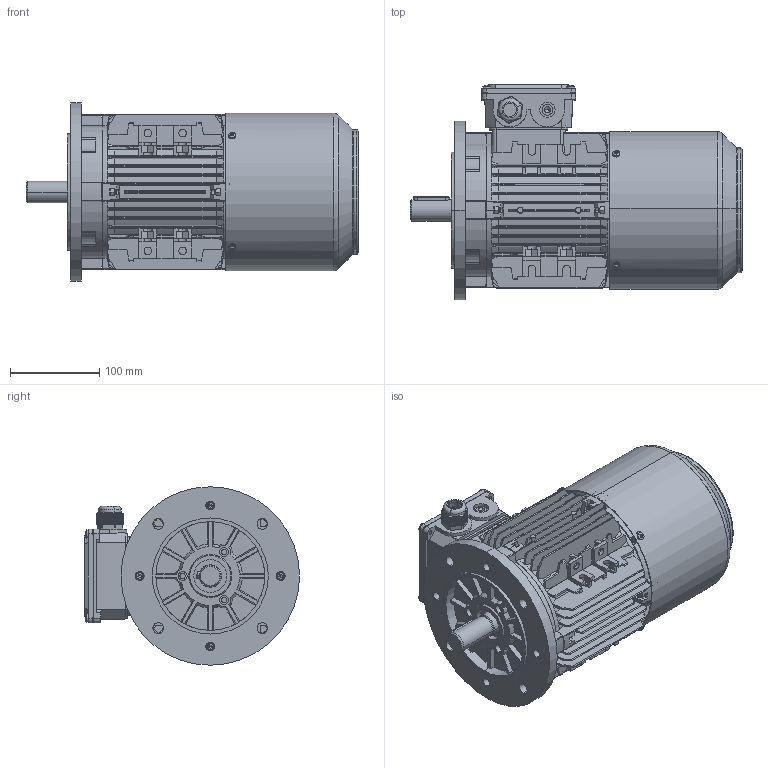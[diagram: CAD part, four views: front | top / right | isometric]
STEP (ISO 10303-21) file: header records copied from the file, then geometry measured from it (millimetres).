
FILE_DESCRIPTION (( 'STEP AP203' ), '1' );
FILE_NAME ('TB90S B5（风罩不带手柄孔）.STEP', '2021-10-22T02:18:28', ( '' ), ( '' ), 'SwSTEP 2.0', 'SolidWorks 2014', '' );
FILE_SCHEMA (( 'CONFIG_CONTROL_DESIGN' ));
Length unit declared in the file: millimetre
Products named in the file (16): 80-100堤盄蹟杶; 陔諉盄碟釱80-100; Hexagon nuts grade C GB_GB_FASTENER_NUT_SNC1 M5-N; TB90S B5（风罩不带手柄孔）; TB90瑞欶ㄗ祥湍忒梟謂ㄘ; TA90B5楊擘1; Cross recessed thread forming screws GB_GB_CROSS_SCREWS_TYPE138 M4X12-N; 90怢宒瑞珔; T90S儂褲; Hexagon socket head cap screws GB_GB_FASTENER_SCREWS_HSHCS M5X25-N; TB90綴裔; 陔諉盄碟裔80-100; Plain parallel keys_GB_CONNECTING_PIECE_KEYS_CSK 8X40; 90-4怢宒瑞珔傍杶; TB90S蛌粣; Cross recessed thread forming screws GB_GB_CROSS_SCREWS_TYPE138 M5X12-N
Assembly tree (36 placements, depth 2):
  TB90S B5（风罩不带手柄孔）
    T90S儂褲
    TB90S蛌粣
    TB90瑞欶ㄗ祥湍忒梟謂ㄘ
    TB90綴裔
    80-100堤盄蹟杶
    Cross recessed thread forming screws GB_GB_CROSS_SCREWS_TYPE138 M4X12-N  x4
    Plain parallel keys_GB_CONNECTING_PIECE_KEYS_CSK 8X40
    Hexagon nuts grade C GB_GB_FASTENER_NUT_SNC1 M5-N  x8
    Hexagon socket head cap screws GB_GB_FASTENER_SCREWS_HSHCS M5X25-N  x8
    Cross recessed thread forming screws GB_GB_CROSS_SCREWS_TYPE138 M5X12-N  x4
    TA90B5楊擘1
    陔諉盄碟裔80-100
    陔諉盄碟釱80-100
    90怢宒瑞珔
    90-4怢宒瑞珔傍杶  x2
Bounding box: 372 x 241 x 200 mm (x, y, z)
Volume: 1427476.8 mm3; surface area: 892662.5 mm2
Topology: 36 solids, 36 shells, 3717 faces, 10074 edges, 6517 vertices
Faces by surface type: plane 2300, cylinder 985, cone 223, torus 183, sphere 26
Entity records: 110941 total; most frequent: CARTESIAN_POINT 26064, ORIENTED_EDGE 18016, DIRECTION 16341, EDGE_CURVE 9008, VERTEX_POINT 5858, VECTOR 5645, LINE 5645, AXIS2_PLACEMENT_3D 5348
